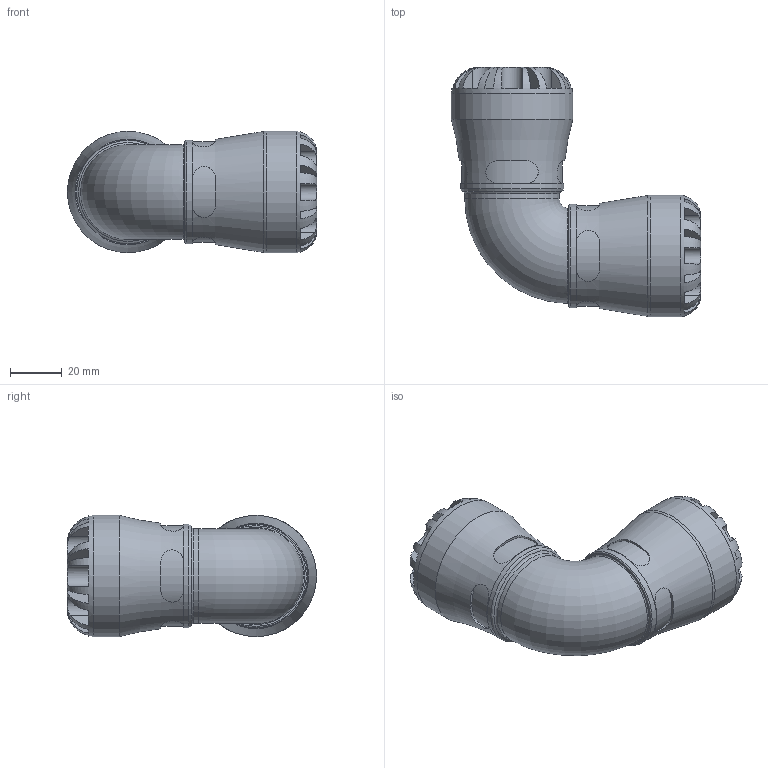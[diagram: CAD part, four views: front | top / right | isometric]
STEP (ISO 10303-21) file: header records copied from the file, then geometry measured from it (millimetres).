
FILE_DESCRIPTION(/* description */ ('PLASSON 90° ELBOW METRIC TO IMPERIAL 25X3/4" SERIES 1'),/* implementation_level */ '2;1');
FILE_NAME(/* name */ 'C:\Dropbox\KIMPROJECTS-Inventor\99-16-3568-Processing\1005M\1005M6025007.ipt.stp',/* time_stamp */ '2017-01-22T11:48:05+02:00',/* author */ ('KIM'),/* organization */ (''),/* preprocessor_version */ 'ST-DEVELOPER v15.6',/* originating_system */ 'Autodesk Inventor 2015',/* authorisation */ '');
FILE_SCHEMA (('AUTOMOTIVE_DESIGN { 1 0 10303 214 3 1 1 }'));
Length unit declared in the file: millimetre
Products named in the file (1): 1005M6025007
Bounding box: 96.5 x 96.5 x 47 mm (x, y, z)
Volume: 133776.2 mm3; surface area: 32176.9 mm2
Topology: 1 solids, 1 shells, 195 faces, 492 edges, 308 vertices
Faces by surface type: plane 117, cylinder 65, torus 10, cone 2, bspline 1
Full cylindrical faces by diameter (mm): 15.875 x2, 19.05 x1, 25 x1, 36.66 x1, 39.95 x2, 47 x2
Entity records: 7577 total; most frequent: CARTESIAN_POINT 2968, ORIENTED_EDGE 916, DIRECTION 886, EDGE_CURVE 458, AXIS2_PLACEMENT_3D 363, VERTEX_POINT 297, EDGE_LOOP 229, STYLED_ITEM 196
